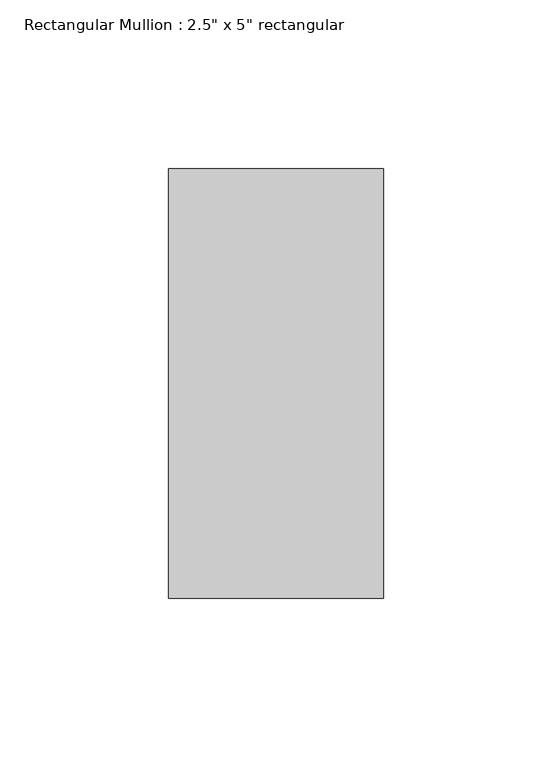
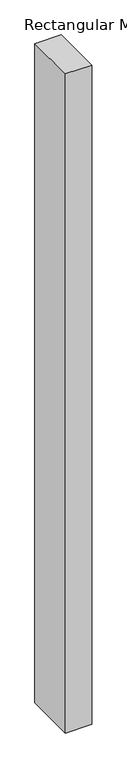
"""IFC4 building model written with IfcOpenShell, lengths in millimetres: member geometry."""

from ifc_helpers import new_model, si_unit, frame, origin, place, context, project, spatial, polyline, outline, extrude, source, transform, mapped, element, save


def member_38e9bff8(model_context):
    return source(origin(), model_context, "Body", "SweptSolid", [
        extrude(outline(polyline([(31.75, 63.5), (31.75, -63.5), (-31.75, -63.5), (-31.75, 63.5), (31.75, 63.5)])), frame((0.0, 0.0, -1676.4), z_axis=(0.0, 0.0, 1.0), x_axis=(1.0, 0.0, 0.0)), (0.0, 0.0, 1.0), 1676.4),
    ])


if __name__ == "__main__":
    model = new_model("IFC4")
    model_context = context("Model", 3, world=origin())
    ifc_project = project(units=[si_unit("LENGTHUNIT", "METRE", prefix="MILLI")], contexts=[model_context])
    site = spatial("IfcSite", under=ifc_project)
    building = spatial("IfcBuilding", under=site)
    placement = place(None, origin())
    member_shape = member_38e9bff8(model_context)
    element("IfcMember", 1, ObjectType="Rectangular Mullion : 2.5\" x 5\" rectangular", at=placement, inside=building, context=model_context, shape_type="MappedRepresentation", body=[
        mapped(member_shape, transform((0.0, 0.0, 0.0), x_axis=(1.0, 0.0, 0.0), y_axis=(0.0, 1.0, 0.0), z_axis=(0.0, 0.0, 1.0))),
    ])
    save(model, "model.ifc")
